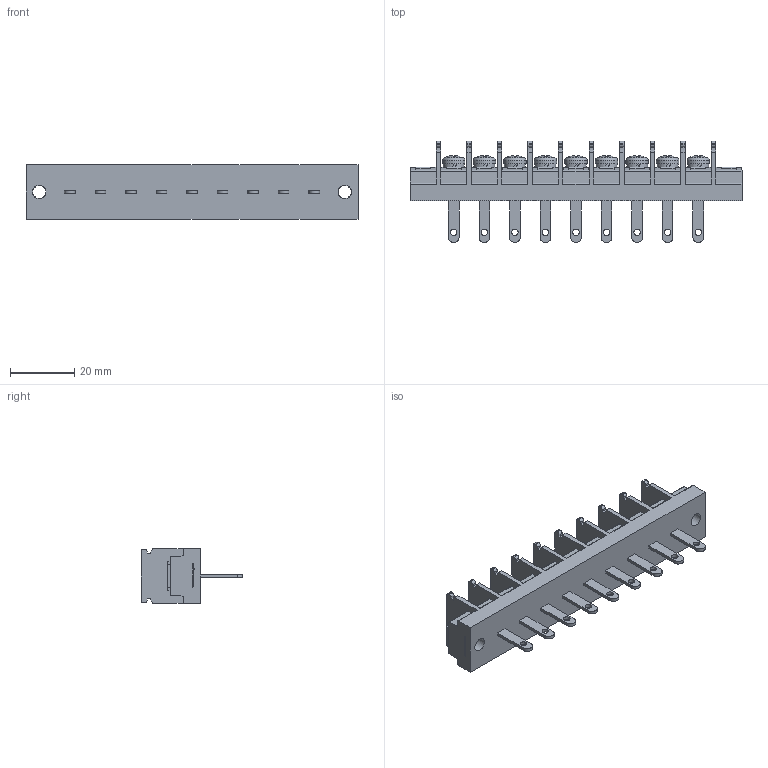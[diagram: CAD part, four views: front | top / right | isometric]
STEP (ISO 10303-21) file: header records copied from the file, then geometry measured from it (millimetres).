
FILE_DESCRIPTION(/* description */ ('Alibre Inc.'),/* implementation_level */ '2;1');
FILE_NAME(/* name */ 'export-C42EF8E4-9805-42D6-8566-97529B7747CE',/* time_stamp */ '2020-11-07T15:41:01+09:00',/* author */ (''),/* organization */ (''),/* preprocessor_version */ 'ST-DEVELOPER v17',/* originating_system */ 'Alibre',/* authorisation */ '');
FILE_SCHEMA (('CONFIG_CONTROL_DESIGN'));
Length unit declared in the file: millimetre
Bounding box: 103.2 x 31.5 x 17 mm (x, y, z)
Volume: 18531.7 mm3; surface area: 12564.7 mm2
Topology: 1 solids, 10 shells, 1214 faces, 3335 edges, 2212 vertices
Faces by surface type: plane 874, cylinder 164, bspline 104, cone 45, torus 18, sphere 9
Full cylindrical faces by diameter (mm): 2 x9, 4 x20, 4.2 x2, 6.5 x9, 7 x9
Entity records: 36731 total; most frequent: CARTESIAN_POINT 7717, ORIENTED_EDGE 6442, DIRECTION 4805, EDGE_CURVE 3221, VECTOR 2244, LINE 2244, VERTEX_POINT 2165, AXIS2_PLACEMENT_3D 1700
